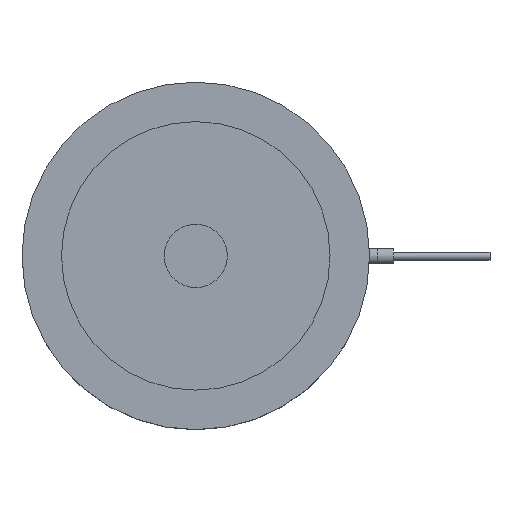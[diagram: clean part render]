
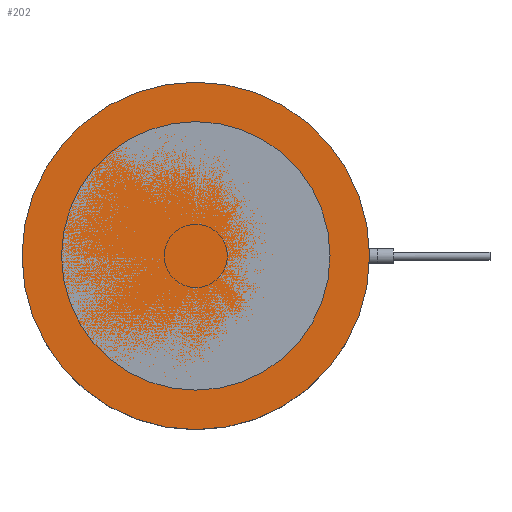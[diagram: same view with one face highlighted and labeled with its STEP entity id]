
A CAD part, top view. The second image highlights one B-rep face of the part: STEP entity #202.
In plain terms, the highlighted planar face has unit normal (0, 0, 1).
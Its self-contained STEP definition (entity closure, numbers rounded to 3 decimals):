
#140=PLANE('',#1114);
#202=ADVANCED_FACE('',(#276),#140,.F.);
#276=FACE_OUTER_BOUND('',#564,.T.);
#394=CIRCLE('',#1113,22.);
#564=EDGE_LOOP('',(#776));
#776=ORIENTED_EDGE('',*,*,#975,.F.);
#869=VERTEX_POINT('',#1996);
#975=EDGE_CURVE('',#869,#869,#394,.T.);
#1113=AXIS2_PLACEMENT_3D('',#1995,#1390,#1391);
#1114=AXIS2_PLACEMENT_3D('',#1997,#1392,#1393);
#1390=DIRECTION('',(0.,0.,-1.));
#1391=DIRECTION('',(-1.,0.,0.));
#1392=DIRECTION('',(0.,0.,-1.));
#1393=DIRECTION('',(-1.,0.,0.));
#1995=CARTESIAN_POINT('',(0.,0.,0.));
#1996=CARTESIAN_POINT('',(-22.,0.,0.));
#1997=CARTESIAN_POINT('',(0.,0.,0.));
